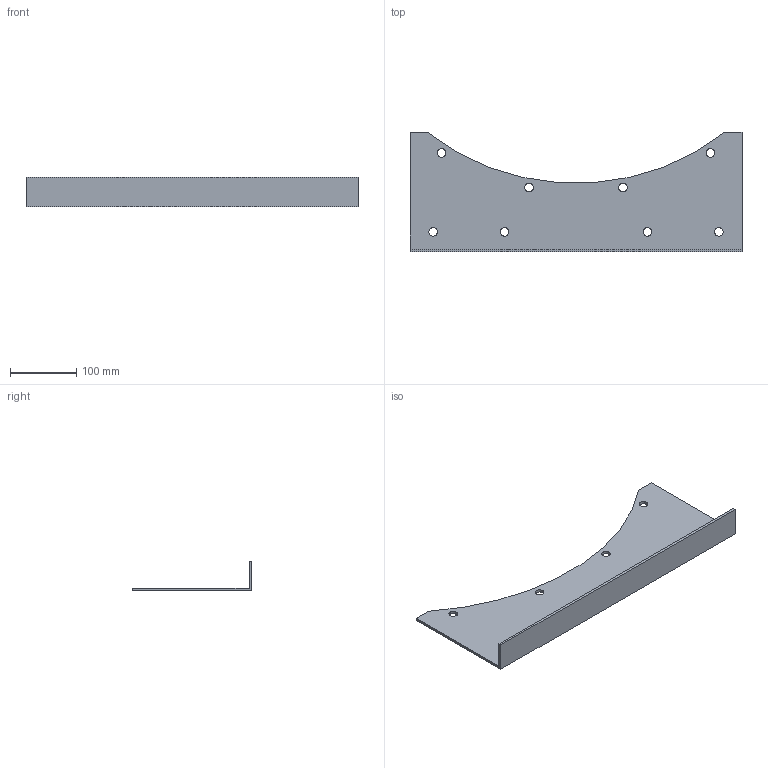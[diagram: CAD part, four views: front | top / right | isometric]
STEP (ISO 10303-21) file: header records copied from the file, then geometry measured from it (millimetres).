
FILE_DESCRIPTION(('STEP AP214'),'1');
FILE_NAME('accessory_5138883300.stp','2017-10-09T07:39:22',('TraceParts'),('TraceParts S.A.'),'Spatial InterOp 3D',' ',' ');
FILE_SCHEMA(('automotive_design'));
Length unit declared in the file: millimetre
Products named in the file (1): accessory_5138883300
Bounding box: 500 x 180 x 45 mm (x, y, z)
Volume: 343530.6 mm3; surface area: 178978 mm2
Topology: 1 solids, 1 shells, 26 faces, 72 edges, 48 vertices
Faces by surface type: cylinder 17, plane 9
Entity records: 1106 total; most frequent: DIRECTION 160, CARTESIAN_POINT 147, ORIENTED_EDGE 144, EDGE_CURVE 72, AXIS2_PLACEMENT_3D 61, VERTEX_POINT 48, EDGE_LOOP 42, LINE 38
